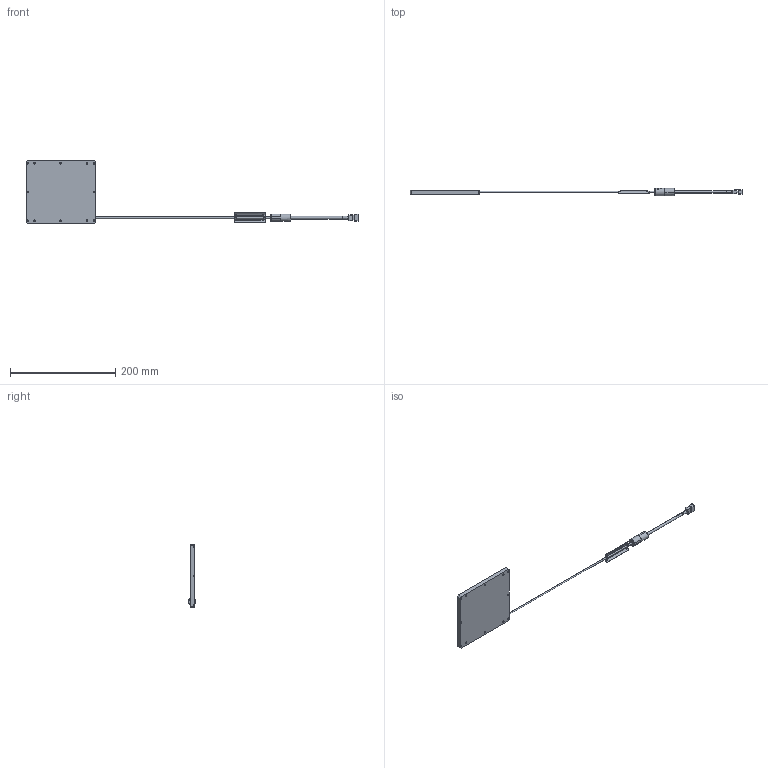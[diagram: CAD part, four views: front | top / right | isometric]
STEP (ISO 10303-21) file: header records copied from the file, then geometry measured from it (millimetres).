
FILE_DESCRIPTION (( 'STEP AP203' ), '1' );
FILE_NAME ('MEBL-C#10080_A09327A0100101A-003.STEP', '2013-12-24T06:46:45', ( 'SCHOTT' ), ( 'SCHOTT' ), 'SwSTEP 2.0', 'SolidWorks 2011', '' );
FILE_SCHEMA (( 'CONFIG_CONTROL_DESIGN' ));
Length unit declared in the file: millimetre
Products named in the file (1): MEBL-C#10080_A09327A0100101A-003
Bounding box: 632 x 14.1 x 120 mm (x, y, z)
Volume: 138926.2 mm3; surface area: 47351 mm2
Topology: 2 solids, 38 shells, 943 faces, 2663 edges, 1874 vertices
Faces by surface type: plane 515, cylinder 315, cone 98, bspline 8, sphere 4, torus 3
Entity records: 37067 total; most frequent: CARTESIAN_POINT 12431, ORIENTED_EDGE 5318, DIRECTION 4815, EDGE_CURVE 2659, VERTEX_POINT 1874, AXIS2_PLACEMENT_3D 1631, VECTOR 1553, LINE 1553
